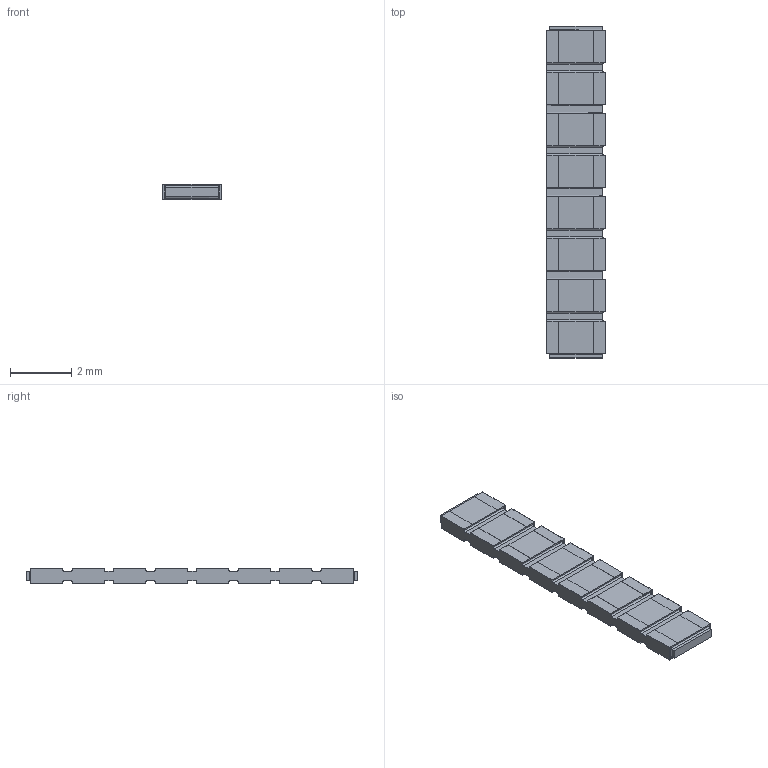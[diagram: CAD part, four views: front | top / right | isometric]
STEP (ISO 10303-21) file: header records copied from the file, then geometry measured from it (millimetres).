
FILE_DESCRIPTION(/* description */ (''),/* implementation_level */ '2;1');
FILE_NAME(/* name */ 'S:\DOCUMENT\AUTOCAD\3D_Modèles\10_3D-pour-VISHAY-COM\PRA\PRA135\PRA135-C2_à_C8\10_IGES\PRA135C8_B-or-N-or-G.stp',/* time_stamp */ '2017-12-18T12:04:54+01:00',/* author */ ('dparmentier'),/* organization */ ('unknown'),/* preprocessor_version */ 'ST-DEVELOPER v17',/* originating_system */ 'Autodesk Inventor 2018',/* authorisation */ '');
FILE_SCHEMA (('AUTOMOTIVE_DESIGN { 1 0 10303 214 3 1 1 }'));
Length unit declared in the file: millimetre
Products named in the file (1): PRA135C8_B-or-N-or-G
Bounding box: 1.91 x 10.8 x 0.5 mm (x, y, z)
Volume: 9.3 mm3; surface area: 99.8 mm2
Topology: 10 solids, 10 shells, 324 faces, 870 edges, 568 vertices
Faces by surface type: plane 246, cylinder 78
Entity records: 10030 total; most frequent: CARTESIAN_POINT 1763, ORIENTED_EDGE 1740, DIRECTION 1640, EDGE_CURVE 870, LINE 750, VECTOR 750, VERTEX_POINT 568, AXIS2_PLACEMENT_3D 445
